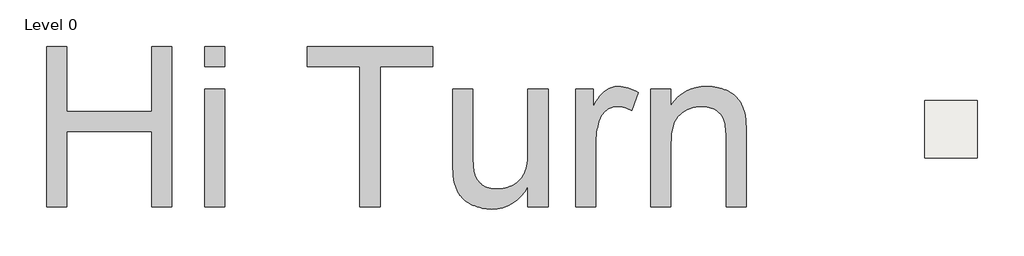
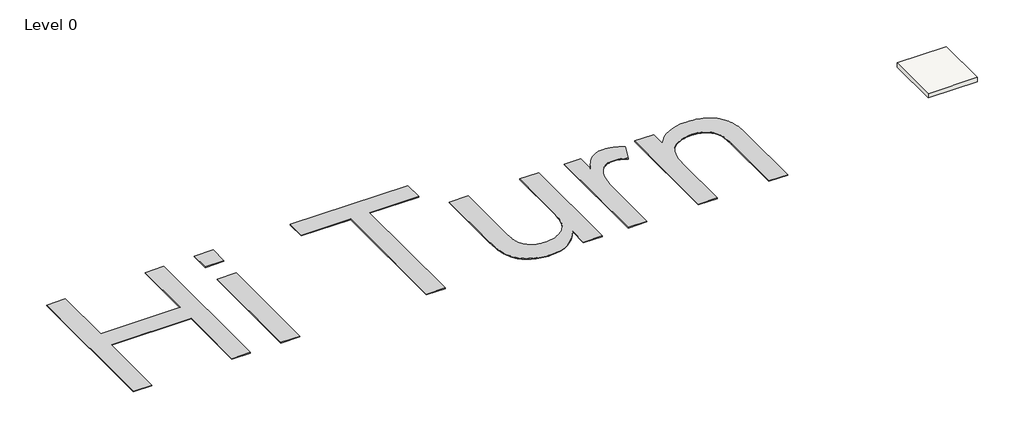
# One storey, incomplete: 1 proxy, 1 slab.
"""IFC4 building model written with IfcOpenShell, lengths in millimetres."""

from ifc_helpers import new_model, si_unit, frame, origin, origin_with_axes, place, context, project, spatial, polyline, outline, extrude, element, save

model = new_model("IFC4")

# Units and contexts
model_context = context("Model", 3, world=origin())
ifc_project = project(units=[si_unit("LENGTHUNIT", "METRE", prefix="MILLI")], contexts=[model_context])

# Site, building, storey
site = spatial("IfcSite", under=ifc_project)
building = spatial("IfcBuilding", under=site)
storey = spatial("IfcBuildingStorey", under=building, Name="Level 0", Elevation=0.0)

# Proxy
placement = place(None, origin())
element("IfcBuildingElementProxy", 1, Name="10 mm", ObjectType="10 mm", at=placement, inside=storey, context=model_context, shape_type="SweptSolid", body=[
    extrude(outline(polyline([(-160020.5962456, 70710.4267394), (-160020.5962456, 80756.0577544), (-158764.8923687, 80756.0577544), (-158764.8923687, 76675.0201545), (-153428.150892, 76675.0201545), (-153428.150892, 80756.0577544), (-152172.4470152, 80756.0577544), (-152172.4470152, 70710.4267394), (-153428.150892, 70710.4267394), (-153428.150892, 75419.3162777), (-158764.8923687, 75419.3162777), (-158764.8923687, 70710.4267394), (-160020.5962456, 70710.4267394)])), origin_with_axes(), (0.0, 0.0, 1.0), 50.0),
    extrude(outline(polyline([(-150131.9282152, 70710.4267394), (-150131.9282152, 78087.687016), (-148876.2243384, 78087.687016), (-148876.2243384, 70710.4267394), (-150131.9282152, 70710.4267394)])), origin_with_axes(), (0.0, 0.0, 1.0), 50.0),
    extrude(outline(polyline([(-150131.9282152, 79500.3538775), (-150131.9282152, 80756.0577544), (-148876.2243384, 80756.0577544), (-148876.2243384, 79500.3538775), (-150131.9282152, 79500.3538775)])), origin_with_axes(), (0.0, 0.0, 1.0), 50.0),
    extrude(outline(polyline([(-140400.2231695, 70710.4267394), (-140400.2231695, 79500.3538775), (-143696.4458463, 79500.3538775), (-143696.4458463, 80756.0577544), (-135848.2966158, 80756.0577544), (-135848.2966158, 79500.3538775), (-139144.5192926, 79500.3538775), (-139144.5192926, 70710.4267394), (-140400.2231695, 70710.4267394)])), origin_with_axes(), (0.0, 0.0, 1.0), 50.0),
    extrude(outline(polyline([(-129883.7032007, 70710.4267394), (-129883.7032007, 71978.3933495), (-130101.5199987, 71644.4254757), (-130338.0374648, 71354.9866518), (-130593.2555989, 71110.0768777), (-130867.1744011, 70909.6961535), (-131159.7938715, 70753.844479), (-131471.1140099, 70642.5218545), (-131801.1348164, 70575.7282797), (-132149.856291, 70553.4637548), (-132306.723473, 70557.372501), (-132460.9465032, 70569.0987396), (-132612.5253815, 70588.6424706), (-132761.460108, 70616.003694), (-132907.7506826, 70651.1824098), (-133051.3971054, 70694.178618), (-133192.3993764, 70744.9923185), (-133330.7574955, 70803.6235115), (-133463.386619, 70868.1561448), (-133587.201903, 70936.6741664), (-133702.2033475, 71009.1775763), (-133808.3909526, 71085.6663745), (-133905.7647182, 71166.1405609), (-133994.3246443, 71250.6001357), (-134074.070731, 71339.0450987), (-134145.0029782, 71431.47545), (-134209.0565985, 71528.5426472), (-134268.1668045, 71630.8981482), (-134322.3335962, 71738.5419528), (-134371.5569735, 71851.4740611), (-134415.8369366, 71969.6944731), (-134455.1734854, 72093.2031888), (-134489.5666198, 72222.0002081), (-134519.0163399, 72356.0855312), (-134536.2608085, 72454.8005332), (-134551.2060145, 72567.0045417), (-134563.8519581, 72692.6975568), (-134574.1986392, 72831.8795783), (-134587.994214, 73150.7106407), (-134592.592739, 73523.4977292), (-134592.592739, 78087.687016), (-133336.8888621, 78087.687016), (-133336.8888621, 74114.5614681), (-133332.137053, 73678.6213038), (-133317.8816257, 73319.9363585), (-133307.1900552, 73169.564593), (-133294.1225802, 73038.5066322), (-133278.6792006, 72926.7624762), (-133260.8599164, 72834.3321249), (-133227.3481659, 72717.9702834), (-133185.6740337, 72608.0080558), (-133135.8375196, 72504.445442), (-133077.8386238, 72407.2824422), (-133011.6773463, 72316.5190562), (-132937.3536869, 72232.155284), (-132854.8676458, 72154.1911258), (-132764.2192229, 72082.6265814), (-132666.7113337, 72018.5346401), (-132563.6468935, 71962.9882909), (-132455.0259023, 71915.9875339), (-132340.8483602, 71877.5323691), (-132221.114267, 71847.6227965), (-132095.823623, 71826.258816), (-131964.9764279, 71813.4404278), (-131828.5726819, 71809.1676317), (-131689.8696734, 71813.5362304), (-131553.3509642, 71826.6420264), (-131419.0165544, 71848.4850199), (-131286.866444, 71879.0652108), (-131156.9006329, 71918.382599), (-131029.1191211, 71966.4371846), (-130903.5219087, 72023.2289676), (-130780.1089956, 72088.757948), (-130662.2526335, 72161.817013), (-130553.325074, 72241.1990498), (-130453.3263171, 72326.9040583), (-130362.2563628, 72418.9320387), (-130280.115211, 72517.2829908), (-130206.9028619, 72621.9569148), (-130142.6193153, 72732.9538105), (-130087.2645714, 72850.273678), (-130039.5548751, 72977.5570162), (-129998.2064717, 73118.4443241), (-129963.2193611, 73272.9356015), (-129934.5935434, 73441.0308486), (-129912.3290185, 73622.7300653), (-129896.4257864, 73818.0332516), (-129886.8838471, 74026.9404075), (-129883.7032007, 74249.451533), (-129883.7032007, 78087.687016), (-128627.9993238, 78087.687016), (-128627.9993238, 70710.4267394), (-129883.7032007, 70710.4267394)])), origin_with_axes(), (0.0, 0.0, 1.0), 50.0),
    extrude(outline(polyline([(-126901.4064931, 70710.4267394), (-126901.4064931, 78087.687016), (-125802.6656009, 78087.687016), (-125802.6656009, 76996.3037637), (-125698.2024427, 77178.8652038), (-125595.7319786, 77345.1785224), (-125495.2542087, 77495.2437196), (-125396.7691329, 77629.0607954), (-125300.2767512, 77746.6297497), (-125205.7770637, 77847.9505825), (-125113.2700703, 77933.0232939), (-125022.7557711, 78001.8478838), (-124932.1648298, 78058.7546299), (-124839.4279102, 78108.0738099), (-124744.5450123, 78149.8054237), (-124647.516136, 78183.9494714), (-124548.3412815, 78210.505953), (-124447.0204487, 78229.4748683), (-124343.5536375, 78240.8562176), (-124237.9408481, 78244.6500006), (-124082.5107051, 78238.5952761), (-123926.4674255, 78220.4311026), (-123769.8110092, 78190.1574801), (-123612.5414563, 78147.7744086), (-123454.6587667, 78093.281888), (-123296.1629404, 78026.6799185), (-123137.0539775, 77947.9684999), (-122977.3318779, 77857.1476324), (-123396.7173524, 76731.4287271), (-123507.081951, 76791.784367), (-123617.4465495, 76844.0925882), (-123727.8111481, 76888.3533907), (-123838.1757466, 76924.5667746), (-123948.5403452, 76952.7327399), (-124058.9049437, 76972.8512865), (-124169.2695423, 76984.9224144), (-124279.6341408, 76988.9461238), (-124377.1037091, 76985.0756986), (-124472.0824096, 76973.4644231), (-124564.5702424, 76954.1122973), (-124654.5672076, 76927.0193212), (-124742.0733051, 76892.1854948), (-124827.0885349, 76849.6108181), (-124909.6128971, 76799.295291), (-124989.6463915, 76741.2389137), (-125065.6561767, 76676.3230699), (-125136.1094109, 76605.4291438), (-125201.0060941, 76528.5571352), (-125260.3462263, 76445.7070442), (-125314.1298076, 76356.8788708), (-125362.3568379, 76262.072615), (-125405.0273172, 76161.2882767), (-125442.1412456, 76054.525856), (-125489.8509419, 75885.1468541), (-125531.1993453, 75711.7824638), (-125566.1864559, 75534.4326853), (-125594.8122736, 75353.0975185), (-125617.0767985, 75167.7769635), (-125632.9800306, 74978.4710201), (-125642.5219699, 74785.1796885), (-125645.7026163, 74587.9029686), (-125645.7026163, 70710.4267394), (-126901.4064931, 70710.4267394)])), origin_with_axes(), (0.0, 0.0, 1.0), 50.0),
    extrude(outline(polyline([(-122192.5169549, 70710.4267394), (-122192.5169549, 78087.687016), (-120936.813078, 78087.687016), (-120936.813078, 77057.6174295), (-120729.6495295, 77335.8281884), (-120500.5663454, 77576.9441794), (-120249.5635258, 77780.9654025), (-119976.6410706, 77947.8918579), (-119681.7989799, 78077.7235453), (-119365.0372536, 78170.4604649), (-119026.3558918, 78226.1026167), (-118665.7548945, 78244.6500006), (-118506.1285975, 78240.9136991), (-118349.759589, 78229.7047946), (-118196.647869, 78211.023287), (-118046.7934376, 78184.8691764), (-117900.1962946, 78151.2424628), (-117756.8564401, 78110.1431461), (-117616.7738741, 78061.5712265), (-117479.9485967, 78005.5267038), (-117349.005599, 77943.408296), (-117226.5698725, 77876.6147213), (-117112.6414171, 77805.1459795), (-117007.2202329, 77729.0020707), (-116910.3063198, 77648.1829949), (-116821.8996778, 77562.6887521), (-116742.000307, 77472.5193422), (-116670.6082073, 77377.6747653), (-116605.9797714, 77278.212503), (-116546.3713918, 77174.1900367), (-116491.7830687, 77065.6073666), (-116442.2148019, 76952.4644926), (-116397.6665916, 76834.7614146), (-116358.1384376, 76712.4981328), (-116323.6303401, 76585.6746471), (-116294.1422989, 76454.2909574), (-116278.6222772, 76359.6763068), (-116265.1715918, 76248.7368926), (-116253.7902425, 76121.4727149), (-116244.4782295, 75977.8837737), (-116232.0622122, 75641.7316006), (-116227.9235397, 75240.2803734), (-116227.9235397, 70710.4267394), (-117483.6274166, 70710.4267394), (-117483.6274166, 75071.0546556), (-117485.888358, 75250.9719438), (-117492.6711823, 75419.1629935), (-117503.9758895, 75575.6278046), (-117519.8024795, 75720.3663771), (-117540.1509523, 75853.3787109), (-117565.021308, 75974.6648062), (-117594.4135466, 76084.2246629), (-117628.3276681, 76182.058281), (-117667.9707851, 76271.7103568), (-117714.5500107, 76356.7255866), (-117768.0653447, 76437.1039705), (-117828.5167871, 76512.8455083), (-117895.904338, 76583.9502002), (-117970.2279973, 76650.4180461), (-118051.4877651, 76712.249046), (-118139.6836413, 76769.4432), (-118233.3594265, 76820.8891977), (-118331.0589209, 76865.4757291), (-118432.7821247, 76903.2027942), (-118538.5290378, 76934.0703928), (-118648.2996602, 76958.0785251), (-118762.0939919, 76975.227191), (-118879.912033, 76985.5163906), (-119001.7537834, 76988.9461238), (-119195.7923753, 76981.2435945), (-119383.048143, 76958.1360067), (-119563.5210863, 76919.6233603), (-119737.2112054, 76865.7056554), (-119904.1185002, 76796.3828919), (-120064.2429707, 76711.6550699), (-120217.5846169, 76611.5221893), (-120364.1434389, 76495.9842502), (-120498.3628855, 76358.909886), (-120614.686406, 76194.16773), (-120713.1140002, 76001.7577823), (-120793.6456682, 75781.6800429), (-120856.28141, 75533.9345118), (-120901.0212256, 75258.5211889), (-120927.8651149, 74955.4400744), (-120936.813078, 74624.6911681), (-120936.813078, 70710.4267394), (-122192.5169549, 70710.4267394)])), origin_with_axes(), (0.0, 0.0, 1.0), 50.0),
])

# Slab
element("IfcSlab", 2, ObjectType="FL_300 mm_Generic", at=placement, inside=storey, context=model_context, shape_type="SweptSolid", body=[
    extrude(outline(polyline([(-101747.8885325, 77369.9753886), (-101747.8885325, 73769.9753886), (-105047.8885325, 73769.9753886), (-105047.8885325, 77369.9753886), (-101747.8885325, 77369.9753886)])), frame((0.0, 0.0, -300.0), z_axis=(0.0, 0.0, 1.0), x_axis=(1.0, 0.0, 0.0)), (0.0, 0.0, 1.0), 300.0),
])

save(model, "model.ifc")
